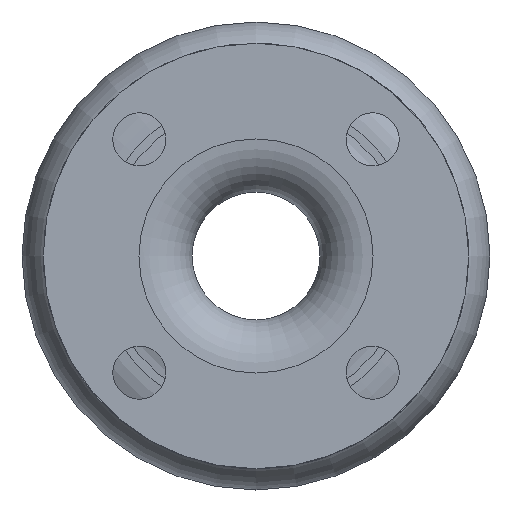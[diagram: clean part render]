
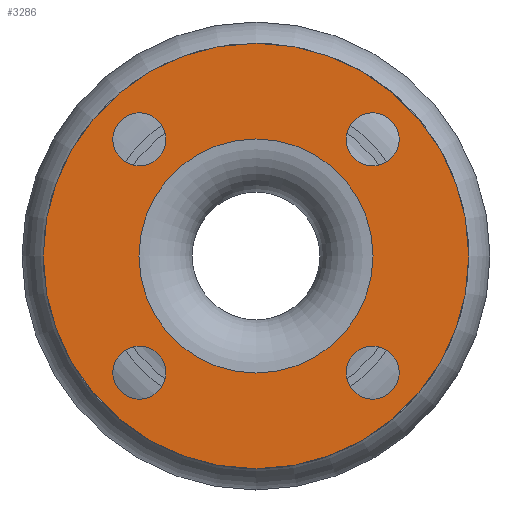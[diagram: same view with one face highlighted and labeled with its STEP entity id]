
A CAD part, left-side view. The second image highlights one B-rep face of the part: STEP entity #3286.
In plain terms, the highlighted planar face has unit normal (-1, 0, 0).
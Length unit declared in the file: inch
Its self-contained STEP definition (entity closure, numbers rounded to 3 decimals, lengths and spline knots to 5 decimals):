
#171=FACE_BOUND('',#597,.T.);
#172=FACE_BOUND('',#598,.T.);
#173=FACE_BOUND('',#599,.T.);
#174=FACE_BOUND('',#600,.T.);
#175=FACE_BOUND('',#601,.T.);
#365=FACE_OUTER_BOUND('',#596,.T.);
#596=EDGE_LOOP('',(#2502));
#597=EDGE_LOOP('',(#2503));
#598=EDGE_LOOP('',(#2504));
#599=EDGE_LOOP('',(#2505));
#600=EDGE_LOOP('',(#2506));
#601=EDGE_LOOP('',(#2507));
#1175=CIRCLE('',#3559,0.3125);
#1177=CIRCLE('',#3562,0.3125);
#1179=CIRCLE('',#3565,0.3125);
#1181=CIRCLE('',#3568,0.3125);
#1205=CIRCLE('',#3611,1.375);
#1206=CIRCLE('',#3613,2.5);
#1461=VERTEX_POINT('',#5367);
#1463=VERTEX_POINT('',#5372);
#1465=VERTEX_POINT('',#5377);
#1467=VERTEX_POINT('',#5382);
#1491=VERTEX_POINT('',#5449);
#1492=VERTEX_POINT('',#5452);
#1835=EDGE_CURVE('',#1461,#1461,#1175,.T.);
#1837=EDGE_CURVE('',#1463,#1463,#1177,.T.);
#1839=EDGE_CURVE('',#1465,#1465,#1179,.T.);
#1841=EDGE_CURVE('',#1467,#1467,#1181,.T.);
#1865=EDGE_CURVE('',#1491,#1491,#1205,.T.);
#1866=EDGE_CURVE('',#1492,#1492,#1206,.T.);
#2502=ORIENTED_EDGE('',*,*,#1866,.F.);
#2503=ORIENTED_EDGE('',*,*,#1865,.T.);
#2504=ORIENTED_EDGE('',*,*,#1835,.T.);
#2505=ORIENTED_EDGE('',*,*,#1837,.T.);
#2506=ORIENTED_EDGE('',*,*,#1839,.T.);
#2507=ORIENTED_EDGE('',*,*,#1841,.T.);
#2972=PLANE('',#3612);
#3286=ADVANCED_FACE('',(#365,#171,#172,#173,#174,#175),#2972,.T.);
#3559=AXIS2_PLACEMENT_3D('',#5368,#4261,#4262);
#3562=AXIS2_PLACEMENT_3D('',#5373,#4267,#4268);
#3565=AXIS2_PLACEMENT_3D('',#5378,#4273,#4274);
#3568=AXIS2_PLACEMENT_3D('',#5383,#4279,#4280);
#3611=AXIS2_PLACEMENT_3D('',#5450,#4365,#4366);
#3612=AXIS2_PLACEMENT_3D('',#5451,#4367,#4368);
#3613=AXIS2_PLACEMENT_3D('',#5453,#4369,#4370);
#4261=DIRECTION('center_axis',(1.,0.,0.));
#4262=DIRECTION('ref_axis',(0.,0.,
1.));
#4267=DIRECTION('center_axis',(1.,0.,0.));
#4268=DIRECTION('ref_axis',(0.,1.,0.));
#4273=DIRECTION('center_axis',(1.,0.,0.));
#4274=DIRECTION('ref_axis',(0.,0.,
-1.));
#4279=DIRECTION('center_axis',(1.,0.,0.));
#4280=DIRECTION('ref_axis',(0.,-1.,0.));
#4365=DIRECTION('center_axis',(1.,0.,0.));
#4366=DIRECTION('ref_axis',(0.,0.,-1.));
#4367=DIRECTION('center_axis',(-1.,0.,0.));
#4368=DIRECTION('ref_axis',(0.,0.,1.));
#4369=DIRECTION('center_axis',(1.,0.,0.));
#4370=DIRECTION('ref_axis',(0.,0.,-1.));
#5367=CARTESIAN_POINT('',(-7.,-1.37002,-1.68252));
#5368=CARTESIAN_POINT('Origin',(-7.,-1.37002,-1.37002));
#5372=CARTESIAN_POINT('',(-7.,-1.68252,1.37002));
#5373=CARTESIAN_POINT('Origin',(-7.,-1.37002,1.37002));
#5377=CARTESIAN_POINT('',(-7.,1.37002,1.68252));
#5378=CARTESIAN_POINT('Origin',(-7.,1.37002,1.37002));
#5382=CARTESIAN_POINT('',(-7.,1.68252,-1.37002));
#5383=CARTESIAN_POINT('Origin',(-7.,1.37002,-1.37002));
#5449=CARTESIAN_POINT('',(-7.,1.375,0.));
#5450=CARTESIAN_POINT('Origin',(-7.,0.,0.));
#5451=CARTESIAN_POINT('Origin',(-7.,2.5,0.));
#5452=CARTESIAN_POINT('',(-7.,2.5,0.));
#5453=CARTESIAN_POINT('Origin',(-7.,0.,0.));
